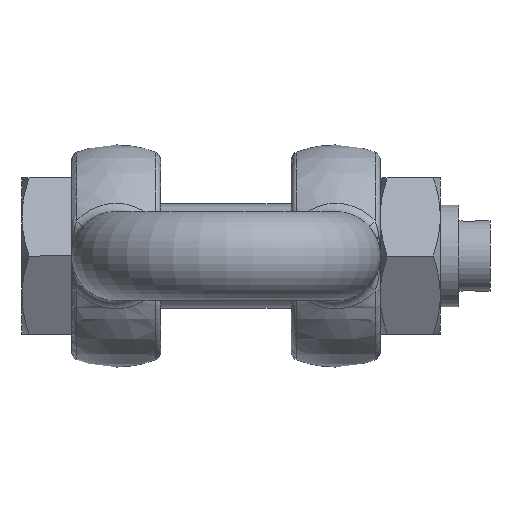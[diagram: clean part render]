
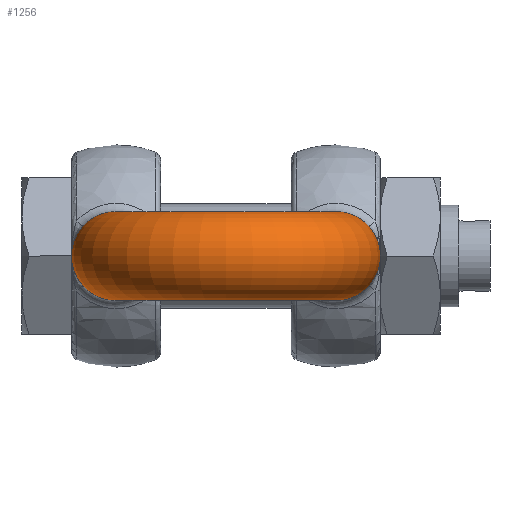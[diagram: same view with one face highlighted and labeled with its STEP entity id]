
A CAD part, front view. The second image highlights one B-rep face of the part: STEP entity #1256.
In plain terms, the highlighted toroidal (fillet/blend) face has major radius 42 mm and minor radius 17 mm.
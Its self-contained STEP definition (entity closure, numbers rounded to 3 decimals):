
#122=TOROIDAL_SURFACE('',#1427,42.,17.);
#233=FACE_OUTER_BOUND('',#320,.T.);
#320=EDGE_LOOP('',(#1009,#1010,#1011,#1012,#1013,#1014));
#477=CIRCLE('',#1425,17.);
#478=CIRCLE('',#1426,17.);
#479=CIRCLE('',#1428,25.);
#480=CIRCLE('',#1429,17.);
#481=CIRCLE('',#1430,17.);
#567=VERTEX_POINT('',#2866);
#568=VERTEX_POINT('',#2868);
#569=VERTEX_POINT('',#2872);
#570=VERTEX_POINT('',#2874);
#724=EDGE_CURVE('',#567,#568,#477,.T.);
#725=EDGE_CURVE('',#568,#567,#478,.T.);
#726=EDGE_CURVE('',#568,#569,#479,.T.);
#727=EDGE_CURVE('',#569,#570,#480,.T.);
#728=EDGE_CURVE('',#570,#569,#481,.T.);
#1009=ORIENTED_EDGE('',*,*,#725,.F.);
#1010=ORIENTED_EDGE('',*,*,#726,.T.);
#1011=ORIENTED_EDGE('',*,*,#727,.T.);
#1012=ORIENTED_EDGE('',*,*,#728,.T.);
#1013=ORIENTED_EDGE('',*,*,#726,.F.);
#1014=ORIENTED_EDGE('',*,*,#724,.F.);
#1256=ADVANCED_FACE('',(#233),#122,.T.);
#1425=AXIS2_PLACEMENT_3D('',#2869,#1653,#1654);
#1426=AXIS2_PLACEMENT_3D('',#2870,#1655,#1656);
#1427=AXIS2_PLACEMENT_3D('',#2871,#1657,#1658);
#1428=AXIS2_PLACEMENT_3D('',#2873,#1659,#1660);
#1429=AXIS2_PLACEMENT_3D('',#2875,#1661,#1662);
#1430=AXIS2_PLACEMENT_3D('',#2876,#1663,#1664);
#1653=DIRECTION('center_axis',(0.,1.,0.));
#1654=DIRECTION('ref_axis',(1.,0.,0.));
#1655=DIRECTION('center_axis',(0.,1.,0.));
#1656=DIRECTION('ref_axis',(1.,0.,0.));
#1657=DIRECTION('center_axis',(0.,0.,-1.));
#1658=DIRECTION('ref_axis',(-1.,0.,0.));
#1659=DIRECTION('center_axis',(0.,0.,1.));
#1660=DIRECTION('ref_axis',(-1.,0.,0.));
#1661=DIRECTION('center_axis',(0.,-1.,0.));
#1662=DIRECTION('ref_axis',(-1.,0.,0.));
#1663=DIRECTION('center_axis',(0.,-1.,0.));
#1664=DIRECTION('ref_axis',(-1.,0.,0.));
#2866=CARTESIAN_POINT('',(-59.,59.,0.));
#2868=CARTESIAN_POINT('',(-25.,59.,0.));
#2869=CARTESIAN_POINT('Origin',(-42.,59.,0.));
#2870=CARTESIAN_POINT('Origin',(-42.,59.,0.));
#2871=CARTESIAN_POINT('Origin',(0.,59.,0.));
#2872=CARTESIAN_POINT('',(25.,59.,0.));
#2873=CARTESIAN_POINT('Origin',(0.,59.,0.));
#2874=CARTESIAN_POINT('',(59.,59.,0.));
#2875=CARTESIAN_POINT('Origin',(42.,59.,0.));
#2876=CARTESIAN_POINT('Origin',(42.,59.,0.));
